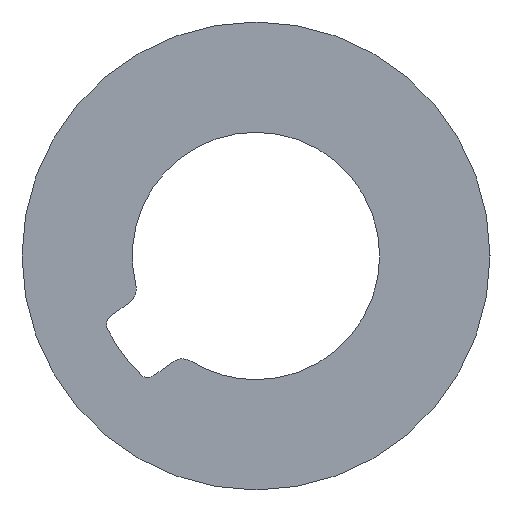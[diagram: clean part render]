
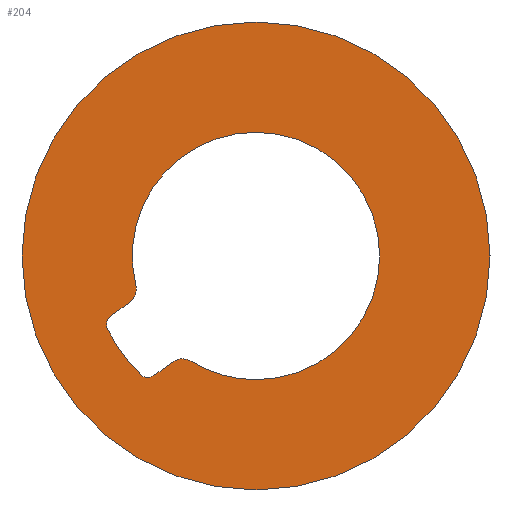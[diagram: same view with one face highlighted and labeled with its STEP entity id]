
A CAD part, left-side view. The second image highlights one B-rep face of the part: STEP entity #204.
In plain terms, the highlighted planar face has unit normal (-1, 0, 0).
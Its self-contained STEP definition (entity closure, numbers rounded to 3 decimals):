
#3 = ORIENTED_EDGE ( 'NONE', *, *, #294, .T. ) ;
#33 = CIRCLE ( 'NONE', #222, 0.3 ) ;
#35 = CIRCLE ( 'NONE', #223, 4.95 ) ;
#37 = CIRCLE ( 'NONE', #227, 0.3 ) ;
#38 = VECTOR ( 'NONE', #393, 1000. ) ;
#39 = CIRCLE ( 'NONE', #231, 0.5 ) ;
#40 = LINE ( 'NONE', #394, #38 ) ;
#41 = CIRCLE ( 'NONE', #224, 0.5 ) ;
#43 = VECTOR ( 'NONE', #405, 1000. ) ;
#44 = CIRCLE ( 'NONE', #225, 7. ) ;
#46 = LINE ( 'NONE', #406, #43 ) ;
#67 = CIRCLE ( 'NONE', #234, 3.7 ) ;
#75 = CIRCLE ( 'NONE', #236, 3.7 ) ;
#82 = CIRCLE ( 'NONE', #238, 3.7 ) ;
#90 = CIRCLE ( 'NONE', #240, 7. ) ;
#93 = ORIENTED_EDGE ( 'NONE', *, *, #288, .T. ) ;
#94 = ORIENTED_EDGE ( 'NONE', *, *, #267, .F. ) ;
#95 = ORIENTED_EDGE ( 'NONE', *, *, #287, .F. ) ;
#96 = ORIENTED_EDGE ( 'NONE', *, *, #271, .T. ) ;
#97 = ORIENTED_EDGE ( 'NONE', *, *, #274, .T. ) ;
#100 = ORIENTED_EDGE ( 'NONE', *, *, #289, .T. ) ;
#101 = ORIENTED_EDGE ( 'NONE', *, *, #278, .T. ) ;
#102 = ORIENTED_EDGE ( 'NONE', *, *, #291, .T. ) ;
#103 = ORIENTED_EDGE ( 'NONE', *, *, #290, .T. ) ;
#108 = CIRCLE ( 'NONE', #243, 0.3 ) ;
#132 = FACE_BOUND ( 'NONE', #158, .T. ) ;
#133 = FACE_OUTER_BOUND ( 'NONE', #159, .T. ) ;
#151 = ORIENTED_EDGE ( 'NONE', *, *, #293, .T. ) ;
#152 = ORIENTED_EDGE ( 'NONE', *, *, #261, .T. ) ;
#153 = ORIENTED_EDGE ( 'NONE', *, *, #292, .T. ) ;
#158 = EDGE_LOOP ( 'NONE', ( #93, #100, #97, #96, #101, #103, #102, #153, #152, #151, #3 ) ) ;
#159 = EDGE_LOOP ( 'NONE', ( #95, #94 ) ) ;
#204 = ADVANCED_FACE ( 'NONE', ( #133, #132 ), #477, .F. ) ;
#222 = AXIS2_PLACEMENT_3D ( 'NONE', #383, #382, #379 ) ;
#223 = AXIS2_PLACEMENT_3D ( 'NONE', #387, #386, #384 ) ;
#224 = AXIS2_PLACEMENT_3D ( 'NONE', #402, #400, #399 ) ;
#225 = AXIS2_PLACEMENT_3D ( 'NONE', #410, #409, #408 ) ;
#227 = AXIS2_PLACEMENT_3D ( 'NONE', #390, #389, #388 ) ;
#231 = AXIS2_PLACEMENT_3D ( 'NONE', #398, #397, #395 ) ;
#234 = AXIS2_PLACEMENT_3D ( 'NONE', #302, #301, #300 ) ;
#236 = AXIS2_PLACEMENT_3D ( 'NONE', #326, #323, #322 ) ;
#238 = AXIS2_PLACEMENT_3D ( 'NONE', #369, #366, #365 ) ;
#240 = AXIS2_PLACEMENT_3D ( 'NONE', #403, #401, #396 ) ;
#243 = AXIS2_PLACEMENT_3D ( 'NONE', #415, #378, #435 ) ;
#255 = AXIS2_PLACEMENT_3D ( 'NONE', #476, #475, #474 ) ;
#261 = EDGE_CURVE ( 'NONE', #504, #505, #108, .T. ) ;
#267 = EDGE_CURVE ( 'NONE', #514, #523, #90, .T. ) ;
#271 = EDGE_CURVE ( 'NONE', #525, #524, #82, .T. ) ;
#274 = EDGE_CURVE ( 'NONE', #515, #525, #75, .T. ) ;
#278 = EDGE_CURVE ( 'NONE', #524, #510, #67, .T. ) ;
#287 = EDGE_CURVE ( 'NONE', #523, #514, #44, .T. ) ;
#288 = EDGE_CURVE ( 'NONE', #500, #501, #46, .T. ) ;
#289 = EDGE_CURVE ( 'NONE', #501, #515, #41, .T. ) ;
#290 = EDGE_CURVE ( 'NONE', #510, #503, #39, .T. ) ;
#291 = EDGE_CURVE ( 'NONE', #503, #502, #40, .T. ) ;
#292 = EDGE_CURVE ( 'NONE', #502, #504, #37, .T. ) ;
#293 = EDGE_CURVE ( 'NONE', #505, #506, #35, .T. ) ;
#294 = EDGE_CURVE ( 'NONE', #506, #500, #33, .T. ) ;
#300 = DIRECTION ( 'NONE',  ( 0., 0., -1. ) ) ;
#301 = DIRECTION ( 'NONE',  ( 1., 0., 0. ) ) ;
#302 = CARTESIAN_POINT ( 'NONE',  ( -110.5, 0., 0. ) ) ;
#322 = DIRECTION ( 'NONE',  ( 0., 0., -1. ) ) ;
#323 = DIRECTION ( 'NONE',  ( 1., 0., 0. ) ) ;
#326 = CARTESIAN_POINT ( 'NONE',  ( -110.5, 0., 0. ) ) ;
#333 = CARTESIAN_POINT ( 'NONE',  ( -110.5, 0., 3.7 ) ) ;
#334 = CARTESIAN_POINT ( 'NONE',  ( -110.5, 0., -3.7 ) ) ;
#335 = CARTESIAN_POINT ( 'NONE',  ( -110.5, 0., 7. ) ) ;
#345 = CARTESIAN_POINT ( 'NONE',  ( -110.5, 3.596, -0.87 ) ) ;
#347 = CARTESIAN_POINT ( 'NONE',  ( -110.5, 0., -7. ) ) ;
#351 = CARTESIAN_POINT ( 'NONE',  ( -110.5, 1.939, -3.151 ) ) ;
#355 = CARTESIAN_POINT ( 'NONE',  ( -110.5, 4.445, -2.177 ) ) ;
#356 = CARTESIAN_POINT ( 'NONE',  ( -110.5, 3.444, -3.555 ) ) ;
#357 = CARTESIAN_POINT ( 'NONE',  ( -110.5, 3.236, -3.64 ) ) ;
#358 = CARTESIAN_POINT ( 'NONE',  ( -110.5, 2.495, -3.172 ) ) ;
#359 = CARTESIAN_POINT ( 'NONE',  ( -110.5, 3.059, -3.582 ) ) ;
#360 = CARTESIAN_POINT ( 'NONE',  ( -110.5, 3.788, -1.393 ) ) ;
#362 = CARTESIAN_POINT ( 'NONE',  ( -110.5, 4.352, -1.803 ) ) ;
#365 = DIRECTION ( 'NONE',  ( 0., 0., -1. ) ) ;
#366 = DIRECTION ( 'NONE',  ( 1., 0., 0. ) ) ;
#369 = CARTESIAN_POINT ( 'NONE',  ( -110.5, 0., 0. ) ) ;
#378 = DIRECTION ( 'NONE',  ( 1., 0., 0. ) ) ;
#379 = DIRECTION ( 'NONE',  ( 0., 0., -1. ) ) ;
#382 = DIRECTION ( 'NONE',  ( 1., 0., 0. ) ) ;
#383 = CARTESIAN_POINT ( 'NONE',  ( -110.5, 4.176, -2.045 ) ) ;
#384 = DIRECTION ( 'NONE',  ( 0., 0., 1. ) ) ;
#386 = DIRECTION ( 'NONE',  ( 1., 0., 0. ) ) ;
#387 = CARTESIAN_POINT ( 'NONE',  ( -110.5, 0., 0. ) ) ;
#388 = DIRECTION ( 'NONE',  ( 0., 0., 1. ) ) ;
#389 = DIRECTION ( 'NONE',  ( 1., 0., 0. ) ) ;
#390 = CARTESIAN_POINT ( 'NONE',  ( -110.5, 3.236, -3.34 ) ) ;
#393 = DIRECTION ( 'NONE',  ( 0., 0.809, -0.588 ) ) ;
#394 = CARTESIAN_POINT ( 'NONE',  ( -110.5, 3.059, -3.582 ) ) ;
#395 = DIRECTION ( 'NONE',  ( 0., 0., -1. ) ) ;
#396 = DIRECTION ( 'NONE',  ( 0., 0., -1. ) ) ;
#397 = DIRECTION ( 'NONE',  ( -1., 0., 0. ) ) ;
#398 = CARTESIAN_POINT ( 'NONE',  ( -110.5, 2.201, -3.577 ) ) ;
#399 = DIRECTION ( 'NONE',  ( 0., 0., 1. ) ) ;
#400 = DIRECTION ( 'NONE',  ( -1., 0., 0. ) ) ;
#401 = DIRECTION ( 'NONE',  ( 1., 0., 0. ) ) ;
#402 = CARTESIAN_POINT ( 'NONE',  ( -110.5, 4.082, -0.988 ) ) ;
#403 = CARTESIAN_POINT ( 'NONE',  ( -110.5, 0., 0. ) ) ;
#405 = DIRECTION ( 'NONE',  ( 0., -0.809, 0.588 ) ) ;
#406 = CARTESIAN_POINT ( 'NONE',  ( -110.5, 3.788, -1.393 ) ) ;
#408 = DIRECTION ( 'NONE',  ( 0., 0., -1. ) ) ;
#409 = DIRECTION ( 'NONE',  ( 1., 0., 0. ) ) ;
#410 = CARTESIAN_POINT ( 'NONE',  ( -110.5, 0., 0. ) ) ;
#415 = CARTESIAN_POINT ( 'NONE',  ( -110.5, 3.236, -3.34 ) ) ;
#435 = DIRECTION ( 'NONE',  ( 0., 0., 1. ) ) ;
#474 = DIRECTION ( 'NONE',  ( 0., 0., -1. ) ) ;
#475 = DIRECTION ( 'NONE',  ( 1., 0., 0. ) ) ;
#476 = CARTESIAN_POINT ( 'NONE',  ( -110.5, 0., 0. ) ) ;
#477 = PLANE ( 'NONE',  #255 ) ;
#500 = VERTEX_POINT ( 'NONE', #362 ) ;
#501 = VERTEX_POINT ( 'NONE', #360 ) ;
#502 = VERTEX_POINT ( 'NONE', #359 ) ;
#503 = VERTEX_POINT ( 'NONE', #358 ) ;
#504 = VERTEX_POINT ( 'NONE', #357 ) ;
#505 = VERTEX_POINT ( 'NONE', #356 ) ;
#506 = VERTEX_POINT ( 'NONE', #355 ) ;
#510 = VERTEX_POINT ( 'NONE', #351 ) ;
#514 = VERTEX_POINT ( 'NONE', #347 ) ;
#515 = VERTEX_POINT ( 'NONE', #345 ) ;
#523 = VERTEX_POINT ( 'NONE', #335 ) ;
#524 = VERTEX_POINT ( 'NONE', #334 ) ;
#525 = VERTEX_POINT ( 'NONE', #333 ) ;
